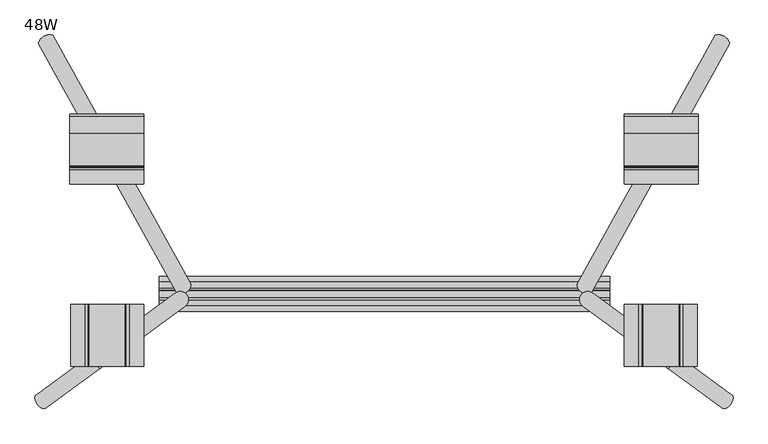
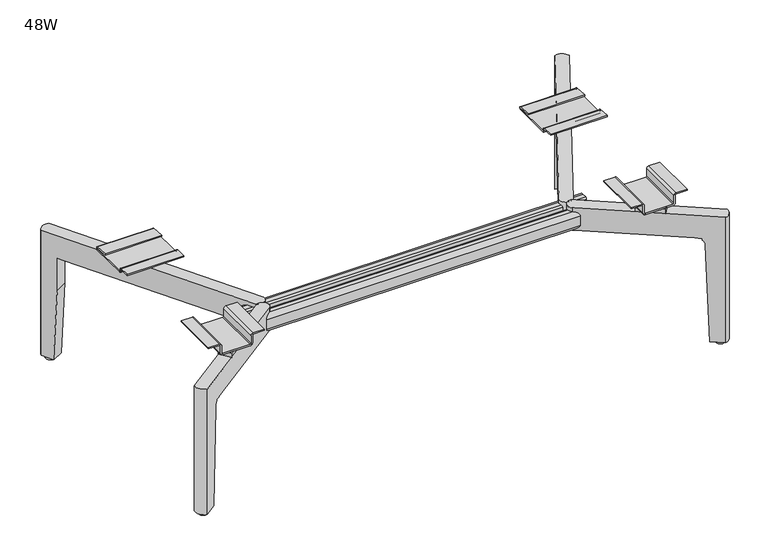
"""IFC4 building model written with IfcOpenShell, lengths in millimetres: furniture geometry, Steelcase Turnstone - Bivi - Seat - Rumble Seat - Freestanding Leg : 48W."""

from ifc_helpers import new_model, si_unit, point, frame, frame_2d, origin, place, context, project, spatial, polyline, circle_curve, ellipse_curve, trimmed, segment, composite_curve, outline, extrude, source, transform, mapped, element, save
from ifc_brep_helpers import plane_surface, cylinder_surface, revolved_surface, advanced_brep


def furniture_48w_d01410e0(model_context):
    return source(origin(), model_context, "Body", "SolidModel", [
        advanced_brep(
        [(-447.8548281, 399.932442, 6.3507797), (-449.298132, 399.6401574, 0.0), (-442.7371977, 403.2769427, 0.0), (-443.7499037, 402.2078387, 6.3507797), (-460.7193509, 409.6947013, 6.3507797), (-440.4467253, 409.6947013, 6.3507797), (-440.4467253, 409.6947013, 0.0), (-460.7193509, 409.6947013, 0.0)],
        [
            (0, 1, ellipse_curve(frame((-450.5830381, 409.6947013, -134.6670445), z_axis=(0.4836286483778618, -0.872489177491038, -0.06975647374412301), x_axis=(0.03381860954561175, -0.061010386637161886, 0.9975640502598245)), 145.3099945, 10.1363128)),
            (1, 2),
            (2, 3, ellipse_curve(frame((-450.5830381, 409.6947013, -134.6670445), z_axis=(0.4836286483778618, -0.872489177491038, -0.06975647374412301), x_axis=(0.03381860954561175, -0.061010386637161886, 0.9975640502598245)), 145.3099945, 10.1363128)),
            (3, 0),
            (4, 0, circle_curve(frame((-450.5830381, 409.6947013, 6.3507797), z_axis=(0.0, 0.0, 1.0), x_axis=(1.0, 0.0, 0.0)), 10.1363128)),
            (3, 5, circle_curve(frame((-450.5830381, 409.6947013, 6.3507797), z_axis=(0.0, 0.0, 1.0), x_axis=(1.0, 0.0, 0.0)), 10.1363128)),
            (5, 4, circle_curve(frame((-450.5830381, 409.6947013, 6.3507797), z_axis=(0.0, 0.0, 1.0), x_axis=(1.0, 0.0, 0.0)), 10.1363128)),
            (6, 2, circle_curve(frame((-450.5830381, 409.6947013, 0.0), z_axis=(0.0, 0.0, -1.0), x_axis=(1.0, 0.0, 0.0)), 10.1363128)),
            (1, 7, circle_curve(frame((-450.5830381, 409.6947013, 0.0), z_axis=(0.0, 0.0, -1.0), x_axis=(1.0, 0.0, 0.0)), 10.1363128)),
            (7, 6, circle_curve(frame((-450.5830381, 409.6947013, 0.0), z_axis=(0.0, 0.0, -1.0), x_axis=(1.0, 0.0, 0.0)), 10.1363128)),
            (6, 5),
            (4, 7),
        ],
        [
            plane_surface(frame((-171.7888142, 535.4370031, 225.5013372), z_axis=(0.4836286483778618, -0.872489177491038, -0.06975647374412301), x_axis=(-0.8746197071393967, -0.48480962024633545, 0.0))),
            plane_surface(frame((-446.7419649, -171.9895532, 6.3507797), z_axis=(0.0, 0.0, 1.0), x_axis=(0.0, -1.0, 0.0))),
            plane_surface(frame((-446.7419649, -171.9895532, 0.0), z_axis=(0.0, 0.0, -1.0), x_axis=(0.0, 1.0, 0.0))),
            cylinder_surface(frame((-450.5830381, 409.6947013, 0.0), z_axis=(0.0, 0.0, 1.0), x_axis=(1.0, 0.0, 0.0)), 10.1363128),
        ],
        [
            (0, [[1, 2, 3, 4]]),
            (1, [[5, -4, 6, 7]]),
            (2, [[8, -2, 9, 10]]),
            (3, [[-6, -3, -8, 11]]),
            (3, [[-9, -1, -5, 12]]),
            (3, [[-11, -10, -12, -7]]),
        ],
    ),
        advanced_brep(
        [(-466.4437124, -171.9895532, 6.3507797), (-446.7419649, -171.9895532, 6.3507797), (-466.4437124, -171.9895532, 0.0), (-446.7419649, -171.9895532, 0.0)],
        [
            (0, 1, circle_curve(frame((-456.5928387, -171.9895532, 6.3507797), z_axis=(0.0, 0.0, 1.0), x_axis=(1.0, 0.0, 0.0)), 9.8508738)),
            (1, 0, circle_curve(frame((-456.5928387, -171.9895532, 6.3507797), z_axis=(0.0, 0.0, 1.0), x_axis=(1.0, 0.0, 0.0)), 9.8508738)),
            (2, 3, circle_curve(frame((-456.5928387, -171.9895532, 0.0), z_axis=(0.0, 0.0, -1.0), x_axis=(1.0, 0.0, 0.0)), 9.8508738)),
            (3, 2, circle_curve(frame((-456.5928387, -171.9895532, 0.0), z_axis=(0.0, 0.0, -1.0), x_axis=(1.0, 0.0, 0.0)), 9.8508738)),
            (0, 2),
            (3, 1),
        ],
        [
            plane_surface(frame((-446.7419649, -171.9895532, 6.3507797), z_axis=(0.0, 0.0, 1.0), x_axis=(0.0, -1.0, 0.0))),
            plane_surface(frame((-446.7419649, -171.9895532, 0.0), z_axis=(0.0, 0.0, -1.0), x_axis=(0.0, 1.0, 0.0))),
            cylinder_surface(frame((-456.5928387, -171.9895532, 0.0), z_axis=(0.0, 0.0, 1.0), x_axis=(1.0, 0.0, 0.0)), 9.8508738),
        ],
        [
            (0, [[1, 2]]),
            (1, [[3, 4]]),
            (2, [[5, -4, 6, -1]]),
            (2, [[-6, -3, -5, -2]]),
        ],
    ),
        advanced_brep(
        [(-457.5662616, -189.9876549, 6.7022799), (-457.5662616, -189.9876549, 292.4522799), (-473.5132074, -168.2156528, 292.4522799), (-473.5132074, -168.2156528, 6.7022799), (-240.8156572, 2.2241264, 241.2086832), (-240.8156572, 2.2241264, 292.4522799), (-224.8687113, -19.5478757, 292.4522799), (-224.8687113, -19.5478757, 241.2086832), (-448.6415256, -149.9983405, 6.7022799), (-433.1586161, -172.1102269, 6.7022799), (-227.6420494, -21.5792126, 241.2086832), (-411.0791874, -155.9381058, 241.2086832), (-426.5620969, -133.8262194, 241.2086832), (-243.5889952, 0.1927895, 241.2086832), (-438.2836418, -142.4116881, 241.2086832), (-431.6129574, -137.5257321, 241.2086832), (-416.1300478, -159.6376185, 241.2086832), (-422.336696, -164.1836902, 241.2086832), (-227.6420494, -21.5792126, 292.4522799), (-426.9937008, -167.5947225, 225.4829664), (-422.336696, -164.1836902, 237.4952058), (-243.5889952, 0.1927895, 292.4522799), (-438.2836418, -142.4116881, 236.9772021), (-442.4766103, -145.4828361, 225.4829664)],
        [
            (0, 1),
            (1, 2, circle_curve(frame((-454.3433039, -170.9008062, 292.4522799), z_axis=(0.0, 0.0, -1.0), x_axis=(1.0, 0.0, 0.0)), 19.3570465)),
            (2, 3),
            (3, 0, circle_curve(frame((-454.3433039, -170.9008062, 6.7022799), z_axis=(0.0, 0.0, 1.0), x_axis=(1.0, 0.0, 0.0)), 19.3570465)),
            (4, 5),
            (5, 6, circle_curve(frame((-234.2288533, -9.6775431, 292.4522799), z_axis=(0.0, 0.0, -1.0), x_axis=(1.0, 0.0, 0.0)), 13.6027836)),
            (6, 7),
            (7, 4, circle_curve(frame((-234.2288533, -9.6775431, 241.2086832), z_axis=(0.0, 0.0, 1.0), x_axis=(1.0, 0.0, 0.0)), 13.6027836)),
            (3, 8),
            (8, 9),
            (9, 0),
            (7, 10),
            (10, 11),
            (11, 12),
            (12, 13),
            (13, 4),
            (14, 15),
            (15, 16),
            (16, 17),
            (17, 14),
            (6, 18),
            (18, 1),
            (9, 19),
            (19, 20, ellipse_curve(frame((-413.6046176, -157.7878621, 224.9035373), z_axis=(-0.5909011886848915, 0.8067439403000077, 0.0), x_axis=(0.8067439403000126, 0.5909011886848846, 0.0)), 16.6065634, 16.6027928)),
            (20, 17),
            (16, 11, ellipse_curve(frame((-413.6046176, -157.7878621, 224.9035373), z_axis=(-0.5909011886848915, 0.8067439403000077, 0.0), x_axis=(0.8067439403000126, 0.5909011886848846, 0.0)), 16.6065634, 16.6027928)),
            (5, 21),
            (21, 2),
            (12, 15, ellipse_curve(frame((-429.0875271, -135.6759757, 224.9035373), z_axis=(0.5909011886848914, -0.8067439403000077, 0.0), x_axis=(0.8067439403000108, 0.5909011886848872, 0.0)), 16.6065634, 16.6027928)),
            (14, 22),
            (22, 23, ellipse_curve(frame((-429.0875271, -135.6759757, 224.9035373), z_axis=(0.5909011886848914, -0.8067439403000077, 0.0), x_axis=(0.8067439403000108, 0.5909011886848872, 0.0)), 16.6065634, 16.6027928)),
            (23, 8),
            (20, 22, ellipse_curve(frame((-122.2524516, -573.8818773, 224.9035373), z_axis=(-0.8067439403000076, -0.5909011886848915, 0.0), x_axis=(-0.5909011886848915, 0.8067439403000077, 0.0)), 779.1591647, 16.6027928)),
            (23, 19),
        ],
        [
            cylinder_surface(frame((-454.3433039, -170.9008062, 0.0), z_axis=(0.0, 0.0, -1.0), x_axis=(1.0, 0.0, 0.0)), 19.3570465),
            cylinder_surface(frame((-234.2288533, -9.6775431, 0.0), z_axis=(0.0, 0.0, -1.0), x_axis=(1.0, 0.0, 0.0)), 13.6027836),
            plane_surface(frame((-471.7396919, -183.4559971, 6.7022799), z_axis=(0.0, 0.0, -1.0), x_axis=(-0.5909011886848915, 0.8067439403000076, 0.0))),
            plane_surface(frame((-217.2996816, 19.448449, 241.2086832), z_axis=(0.0, 0.0, -1.0000000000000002), x_axis=(-0.8067439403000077, -0.5909011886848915, 0.0))),
            plane_surface(frame((-201.3527358, -2.3235531, 241.2086832), z_axis=(0.5909011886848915, -0.8067439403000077, 0.0), x_axis=(-0.8067439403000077, -0.5909011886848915, 0.0))),
            plane_surface(frame((-201.3527358, -2.3235531, 292.4522799), z_axis=(0.0, 0.0, 1.0), x_axis=(-0.8067439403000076, -0.5909011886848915, 0.0))),
            plane_surface(frame((-217.2996816, 19.448449, 292.4522799), z_axis=(-0.5909011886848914, 0.8067439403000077, 0.0), x_axis=(-0.8067439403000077, -0.5909011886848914, 0.0))),
            plane_surface(frame((-438.2836418, -142.4116881, 241.2086832), z_axis=(0.8067439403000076, 0.5909011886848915, 0.0), x_axis=(0.0, 0.0, -1.0))),
            plane_surface(frame((-609.4927218, 93.0408907, 225.4829664), z_axis=(0.818653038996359, 0.5732270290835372, -0.0348994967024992), x_axis=(0.5735764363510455, -0.8191520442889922, 0.0))),
            revolved_surface(polyline([(-415.69028273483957, -125.86313766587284, 224.9035373), (-399.80143864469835, -148.55475868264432, 224.9035373)]), (-220.606391, -433.4178947, 224.9035373), (-0.5735764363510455, 0.8191520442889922, 0.0)),
            revolved_surface(polyline([(-555.4581048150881, 73.74599884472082, 224.9035373), (338.1536250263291, -1202.463811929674, 224.9035373)]), (-220.606391, -433.4178947, 224.9035373), (-0.5735764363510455, 0.8191520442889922, 0.0)),
        ],
        [
            (0, [[1, 2, 3, 4]]),
            (1, [[5, 6, 7, 8]]),
            (2, [[9, 10, 11, -4]]),
            (3, [[-8, 12, 13, 14, 15, 16]]),
            (3, [[17, 18, 19, 20]]),
            (4, [[-7, 21, 22, -1, -11, 23, 24, 25, -19, 26, -13, -12]]),
            (5, [[-21, -6, 27, 28, -2, -22]]),
            (6, [[-15, 29, -17, 30, 31, 32, -9, -3, -28, -27, -5, -16]]),
            (7, [[-25, 33, -30, -20]]),
            (8, [[-23, -10, -32, 34]]),
            (9, [[-29, -14, -26, -18]]),
            (10, [[-31, -33, -24, -34]]),
        ],
    ),
        advanced_brep(
        [(-444.2904487, 426.4865494, 6.7022799), (-431.2709408, 402.9987354, 6.7022799), (-454.8747402, 389.9149358, 6.7022799), (-467.894248, 413.4027498, 6.7022799), (-427.1537242, 395.57108, 241.2086832), (-421.4162326, 385.2203713, 241.2086832), (-216.7819531, 16.0503586, 241.2086832), (-240.3857524, 2.966559, 241.2086832), (-445.020032, 372.1365716, 241.2086832), (-450.7575235, 382.4872804, 241.2086832), (-216.7819531, 16.0503586, 292.4522799), (-427.1537242, 395.57108, 168.7476885), (-444.2904487, 426.4865494, 292.4522799), (-467.894248, 413.4027498, 292.4522799), (-240.3857524, 2.966559, 292.4522799), (-450.7575235, 382.4872804, 168.7476885)],
        [
            (0, 1),
            (1, 2),
            (2, 3),
            (3, 0, circle_curve(frame((-449.4837107, 408.0223516, 6.7022799), z_axis=(0.0, 0.0, -1.0), x_axis=(1.0, 0.0, 0.0)), 19.1806301)),
            (4, 5),
            (5, 6),
            (6, 7, circle_curve(frame((-231.6722089, 15.0800008, 241.2086832), z_axis=(0.0, 0.0, -1.0), x_axis=(1.0, 0.0, 0.0)), 14.9218401)),
            (7, 8),
            (8, 9),
            (9, 4),
            (10, 6),
            (4, 11),
            (11, 1),
            (0, 12),
            (12, 10),
            (12, 13, circle_curve(frame((-449.4837107, 408.0223516, 292.4522799), z_axis=(0.0, 0.0, 1.0), x_axis=(1.0, 0.0, 0.0)), 19.1806301)),
            (13, 14),
            (14, 10, circle_curve(frame((-231.6722089, 15.0800008, 292.4522799), z_axis=(0.0, 0.0, 1.0), x_axis=(1.0, 0.0, 0.0)), 14.9218401)),
            (13, 3),
            (2, 15),
            (15, 9),
            (7, 14),
            (15, 11),
        ],
        [
            plane_surface(frame((-463.9308371, 433.7747682, 6.7022799), z_axis=(0.0, 0.0, -1.0000000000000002), x_axis=(-0.8746197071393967, -0.4848096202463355, 0.0))),
            plane_surface(frame((-198.9909415, -16.045476, 241.2086832), z_axis=(0.0, 0.0, -1.0), x_axis=(-0.48480962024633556, 0.8746197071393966, 0.0))),
            plane_surface(frame((-198.9909415, -16.045476, 292.4522799), z_axis=(0.8746197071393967, 0.48480962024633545, 0.0), x_axis=(-0.48480962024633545, 0.8746197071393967, 0.0))),
            plane_surface(frame((-222.5947408, -29.1292756, 292.4522799), z_axis=(0.0, 0.0, 1.0), x_axis=(-0.48480962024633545, 0.8746197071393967, 0.0))),
            plane_surface(frame((-222.5947408, -29.1292756, 241.2086832), z_axis=(-0.8746197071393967, -0.4848096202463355, 0.0), x_axis=(-0.4848096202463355, 0.8746197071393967, 0.0))),
            plane_surface(frame((-427.1537242, 395.57108, 241.2086832), z_axis=(0.48480962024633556, -0.8746197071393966, 0.0), x_axis=(0.0, 0.0, -1.0))),
            cylinder_surface(frame((-449.4837107, 408.0223516, 0.0), z_axis=(0.0, 0.0, -1.0), x_axis=(1.0, 0.0, 0.0)), 19.1806301),
            cylinder_surface(frame((-231.6722089, 15.0800008, 0.0), z_axis=(0.0, 0.0, -1.0), x_axis=(1.0, 0.0, 0.0)), 14.9218401),
            plane_surface(frame((-171.0618568, 534.1255371, 225.4824396), z_axis=(0.4841452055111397, -0.8734210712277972, -0.05233595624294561), x_axis=(-0.8746197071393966, -0.48480962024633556, 0.0))),
        ],
        [
            (0, [[1, 2, 3, 4]]),
            (1, [[5, 6, 7, 8, 9, 10]]),
            (2, [[11, -6, -5, 12, 13, -1, 14, 15]]),
            (3, [[16, 17, 18, -15]]),
            (4, [[19, -3, 20, 21, -9, -8, 22, -17]]),
            (5, [[-21, 23, -12, -10]]),
            (6, [[-19, -16, -14, -4]]),
            (7, [[-11, -18, -22, -7]]),
            (8, [[-13, -23, -20, -2]]),
        ],
    ),
        extrude(outline(polyline([(-360.2254616, 274.8292982), (-331.6935947, 223.3564477), (-354.8019114, 210.5472986), (-383.3337783, 262.0201491), (-360.2254616, 274.8292982)])), frame((0.0, 0.0, 292.4522799), z_axis=(0.0, 0.0, 1.0), x_axis=(1.0, 0.0, 0.0)), (0.0, 0.0, 1.0), 9.681731),
        extrude(outline(polyline([(-336.1197035, -67.5815101), (-320.1727577, -89.3535122), (-367.1031783, -123.7277912), (-383.0501241, -101.9557892), (-336.1197035, -67.5815101)])), frame((0.0, 0.0, 292.4522799), z_axis=(0.0, 0.0, 1.0), x_axis=(1.0, 0.0, 0.0)), (0.0, 0.0, 1.0), 9.681731),
        extrude(outline(composite_curve([segment(polyline([(329.0146194, -391.536926), (329.0146194, -414.919227), (326.1962261, -414.919227), (326.1962261, -389.5196146), (307.319003, -389.5196146)]), True, "CONTINUOUS"), segment(trimmed(circle_curve(frame_2d((307.319003, -384.3346224)), 5.1849921), [point((307.319003, -389.5196146))], [point((302.1340108, -384.3346224))], False, "CARTESIAN"), True, "CONTINUOUS"), segment(polyline([(302.1340108, -384.3346224), (302.1340108, -324.9218765)]), True, "CONTINUOUS"), segment(trimmed(circle_curve(frame_2d((307.319003, -324.9218765)), 5.1849921), [point((302.1340108, -324.9218765))], [point((307.319003, -319.7368843))], False, "CARTESIAN"), True, "CONTINUOUS"), segment(polyline([(307.319003, -319.7368843), (326.1962261, -319.7368843), (326.1962261, -294.3372719), (329.0146194, -294.3372719), (329.0146194, -317.7195729)]), True, "CONTINUOUS"), segment(trimmed(circle_curve(frame_2d((323.9591212, -317.7195729)), 5.0554981), [point((329.0146194, -317.7195729))], [point((323.9591212, -322.775071))], False, "CARTESIAN"), True, "CONTINUOUS"), segment(polyline([(323.9591212, -322.775071), (307.4106461, -322.775071)]), True, "CONTINUOUS"), segment(trimmed(circle_curve(frame_2d((307.4106461, -325.0138648)), 2.2387938), [point((307.4106461, -322.775071))], [point((305.1718523, -325.0138648))], True, "CARTESIAN"), True, "CONTINUOUS"), segment(polyline([(305.1718523, -325.0138648), (305.1718523, -384.2426342)]), True, "CONTINUOUS"), segment(trimmed(circle_curve(frame_2d((307.4106461, -384.2426342)), 2.2387938), [point((305.1718523, -384.2426342))], [point((307.4106461, -386.4814279))], True, "CARTESIAN"), True, "CONTINUOUS"), segment(polyline([(307.4106461, -386.4814279), (323.9591212, -386.4814279)]), True, "CONTINUOUS"), segment(trimmed(circle_curve(frame_2d((323.9591212, -391.536926)), 5.0554981), [point((323.9591212, -386.4814279))], [point((329.0146194, -391.536926))], False, "CARTESIAN"), True, "CONTINUOUS")], self_intersect=False)), frame((0.0, -119.6808622, 0.0), z_axis=(0.0, 1.0, 0.0), x_axis=(0.0, 0.0, 1.0)), (0.0, 0.0, 1.0), 101.810408),
        extrude(outline(composite_curve([segment(polyline([(210.5472986, 305.1718523), (293.0972986, 305.1718523)]), True, "CONTINUOUS"), segment(trimmed(circle_curve(frame_2d((293.0706733, 305.6798944)), 0.5087393), [point((293.0972986, 305.1718523))], [point((293.0972986, 306.1879364))], True, "CARTESIAN"), True, "CONTINUOUS"), segment(polyline([(293.0972986, 306.1879364), (264.6966329, 307.6763522), (264.6966329, 310.6138209), (293.0972986, 309.1254051)]), True, "CONTINUOUS"), segment(trimmed(circle_curve(frame_2d((292.9140969, 305.629708)), 3.5004944), [point((293.0972986, 309.1254051))], [point((293.0972986, 302.1340108))], False, "CARTESIAN"), True, "CONTINUOUS"), segment(polyline([(293.0972986, 302.1340108), (210.5472986, 302.1340108)]), True, "CONTINUOUS"), segment(trimmed(circle_curve(frame_2d((210.5472986, 306.5928983)), 4.4588874), [point((210.5472986, 302.1340108))], [point((206.0896008, 306.6958872))], False, "CARTESIAN"), True, "CONTINUOUS"), segment(polyline([(206.0896008, 306.6958872), (206.0896008, 308.9892465)]), True, "CONTINUOUS"), segment(trimmed(circle_curve(frame_2d((204.5626663, 308.9892465)), 1.5269345), [point((206.0896008, 308.9892465))], [point((204.6399799, 310.5142224))], True, "CARTESIAN"), True, "CONTINUOUS"), segment(polyline([(204.6399799, 310.5142224), (181.1002415, 311.7478878), (181.1002415, 314.6691166), (204.5350283, 313.4409515)]), True, "CONTINUOUS"), segment(trimmed(circle_curve(frame_2d((204.2966829, 308.8930489)), 4.5541438), [point((204.5350283, 313.4409515))], [point((208.6006854, 310.3816014))], False, "CARTESIAN"), True, "CONTINUOUS"), segment(trimmed(circle_curve(frame_2d((199.2165598, 307.1360729)), 9.9295149), [point((208.6006854, 310.3816014))], [point((209.1329432, 306.625575))], False, "CARTESIAN"), True, "CONTINUOUS"), segment(trimmed(circle_curve(frame_2d((211.0902359, 307.1149751)), 2.0175498), [point((209.1329432, 306.625575))], [point((210.5472986, 305.1718523))], True, "CARTESIAN"), True, "CONTINUOUS")], self_intersect=False)), frame((-416.0038708, 0.0, 0.0), z_axis=(1.0, 0.0, 0.0), x_axis=(0.0, 1.0, 0.0)), (0.0, 0.0, 1.0), 121.840912),
        advanced_brep(
        [(651.0798535, 399.932442, 6.3507797), (646.9749291, 402.2078387, 6.3507797), (645.9622232, 403.2769427, 0.0), (652.5231575, 399.6401574, 0.0), (663.9443764, 409.6947013, 6.3507797), (643.6717507, 409.6947013, 6.3507797), (643.6717507, 409.6947013, 0.0), (663.9443764, 409.6947013, 0.0)],
        [
            (0, 1),
            (1, 2, ellipse_curve(frame((653.8080635, 409.6947013, -134.6670445), z_axis=(-0.4836286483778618, -0.872489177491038, -0.06975647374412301), x_axis=(-0.03381860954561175, -0.061010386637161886, 0.9975640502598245)), 145.3099945, 10.1363128)),
            (2, 3),
            (3, 0, ellipse_curve(frame((653.8080635, 409.6947013, -134.6670445), z_axis=(-0.4836286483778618, -0.872489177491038, -0.06975647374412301), x_axis=(-0.03381860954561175, -0.061010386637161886, 0.9975640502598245)), 145.3099945, 10.1363128)),
            (4, 5, circle_curve(frame((653.8080635, 409.6947013, 6.3507797), z_axis=(0.0, 0.0, 1.0), x_axis=(-1.0, 0.0, 0.0)), 10.1363128)),
            (5, 1, circle_curve(frame((653.8080635, 409.6947013, 6.3507797), z_axis=(0.0, 0.0, 1.0), x_axis=(-1.0, 0.0, 0.0)), 10.1363128)),
            (0, 4, circle_curve(frame((653.8080635, 409.6947013, 6.3507797), z_axis=(0.0, 0.0, 1.0), x_axis=(-1.0, 0.0, 0.0)), 10.1363128)),
            (6, 7, circle_curve(frame((653.8080635, 409.6947013, 0.0), z_axis=(0.0, 0.0, -1.0), x_axis=(-1.0, 0.0, 0.0)), 10.1363128)),
            (7, 3, circle_curve(frame((653.8080635, 409.6947013, 0.0), z_axis=(0.0, 0.0, -1.0), x_axis=(-1.0, 0.0, 0.0)), 10.1363128)),
            (2, 6, circle_curve(frame((653.8080635, 409.6947013, 0.0), z_axis=(0.0, 0.0, -1.0), x_axis=(-1.0, 0.0, 0.0)), 10.1363128)),
            (5, 6),
            (7, 4),
        ],
        [
            plane_surface(frame((375.0138397, 535.4370031, 225.5013372), z_axis=(-0.4836286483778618, -0.872489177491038, -0.06975647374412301), x_axis=(0.8746197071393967, -0.48480962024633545, 0.0))),
            plane_surface(frame((649.9669904, -171.9895532, 6.3507797), z_axis=(0.0, 0.0, 1.0), x_axis=(0.0, -1.0, 0.0))),
            plane_surface(frame((649.9669904, -171.9895532, 0.0), z_axis=(0.0, 0.0, -1.0), x_axis=(0.0, 1.0, 0.0))),
            cylinder_surface(frame((653.8080635, 409.6947013, 0.0), z_axis=(0.0, 0.0, 1.0), x_axis=(-1.0, 0.0, 0.0)), 10.1363128),
        ],
        [
            (0, [[1, 2, 3, 4]]),
            (1, [[5, 6, -1, 7]]),
            (2, [[8, 9, -3, 10]]),
            (3, [[11, -10, -2, -6]]),
            (3, [[12, -7, -4, -9]]),
            (3, [[-5, -12, -8, -11]]),
        ],
    ),
        advanced_brep(
        [(669.6687379, -171.9895532, 6.3507797), (649.9669904, -171.9895532, 6.3507797), (669.6687379, -171.9895532, 0.0), (649.9669904, -171.9895532, 0.0)],
        [
            (0, 1, circle_curve(frame((659.8178641, -171.9895532, 6.3507797), z_axis=(0.0, 0.0, 1.0), x_axis=(-1.0, 0.0, 0.0)), 9.8508738)),
            (1, 0, circle_curve(frame((659.8178641, -171.9895532, 6.3507797), z_axis=(0.0, 0.0, 1.0), x_axis=(-1.0, 0.0, 0.0)), 9.8508738)),
            (2, 3, circle_curve(frame((659.8178641, -171.9895532, 0.0), z_axis=(0.0, 0.0, -1.0), x_axis=(-1.0, 0.0, 0.0)), 9.8508738)),
            (3, 2, circle_curve(frame((659.8178641, -171.9895532, 0.0), z_axis=(0.0, 0.0, -1.0), x_axis=(-1.0, 0.0, 0.0)), 9.8508738)),
            (1, 3),
            (2, 0),
        ],
        [
            plane_surface(frame((649.9669904, -171.9895532, 6.3507797), z_axis=(0.0, 0.0, 1.0), x_axis=(0.0, -1.0, 0.0))),
            plane_surface(frame((649.9669904, -171.9895532, 0.0), z_axis=(0.0, 0.0, -1.0), x_axis=(0.0, 1.0, 0.0))),
            cylinder_surface(frame((659.8178641, -171.9895532, 0.0), z_axis=(0.0, 0.0, 1.0), x_axis=(-1.0, 0.0, 0.0)), 9.8508738),
        ],
        [
            (0, [[1, 2]]),
            (1, [[3, 4]]),
            (2, [[-2, 5, -3, 6]]),
            (2, [[-1, -6, -4, -5]]),
        ],
    ),
        advanced_brep(
        [(660.791287, -189.9876549, 6.7022799), (676.7382329, -168.2156528, 6.7022799), (676.7382329, -168.2156528, 292.4522799), (660.791287, -189.9876549, 292.4522799), (444.0406826, 2.2241264, 241.2086832), (428.0937368, -19.5478757, 241.2086832), (428.0937368, -19.5478757, 292.4522799), (444.0406826, 2.2241264, 292.4522799), (636.3836416, -172.1102269, 6.7022799), (651.8665511, -149.9983405, 6.7022799), (641.5086673, -142.4116881, 241.2086832), (625.5617215, -164.1836902, 241.2086832), (619.3550733, -159.6376185, 241.2086832), (634.8379828, -137.5257321, 241.2086832), (446.8140207, 0.1927895, 241.2086832), (629.7871224, -133.8262194, 241.2086832), (614.3042128, -155.9381058, 241.2086832), (430.8670749, -21.5792126, 241.2086832), (625.5617215, -164.1836902, 237.4952058), (630.2187262, -167.5947225, 225.4829664), (430.8670749, -21.5792126, 292.4522799), (446.8140207, 0.1927895, 292.4522799), (645.7016358, -145.4828361, 225.4829664), (641.5086673, -142.4116881, 236.9772021)],
        [
            (0, 1, circle_curve(frame((657.5683293, -170.9008062, 6.7022799), z_axis=(0.0, 0.0, 1.0), x_axis=(-1.0, 0.0, 0.0)), 19.3570465)),
            (1, 2),
            (2, 3, circle_curve(frame((657.5683293, -170.9008062, 292.4522799), z_axis=(0.0, 0.0, -1.0), x_axis=(-1.0, 0.0, 0.0)), 19.3570465)),
            (3, 0),
            (4, 5, circle_curve(frame((437.4538787, -9.6775431, 241.2086832), z_axis=(0.0, 0.0, 1.0), x_axis=(-1.0, 0.0, 0.0)), 13.6027836)),
            (5, 6),
            (6, 7, circle_curve(frame((437.4538787, -9.6775431, 292.4522799), z_axis=(0.0, 0.0, -1.0), x_axis=(-1.0, 0.0, 0.0)), 13.6027836)),
            (7, 4),
            (0, 8),
            (8, 9),
            (9, 1),
            (10, 11),
            (11, 12),
            (12, 13),
            (13, 10),
            (4, 14),
            (14, 15),
            (15, 16),
            (16, 17),
            (17, 5),
            (16, 12, ellipse_curve(frame((616.8296431, -157.7878621, 224.9035373), z_axis=(0.5909011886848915, 0.8067439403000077, 0.0), x_axis=(-0.8067439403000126, 0.5909011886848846, 0.0)), 16.6065634, 16.6027928)),
            (11, 18),
            (18, 19, ellipse_curve(frame((616.8296431, -157.7878621, 224.9035373), z_axis=(0.5909011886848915, 0.8067439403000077, 0.0), x_axis=(-0.8067439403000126, 0.5909011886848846, 0.0)), 16.6065634, 16.6027928)),
            (19, 8),
            (3, 20),
            (20, 6),
            (2, 21),
            (21, 7),
            (9, 22),
            (22, 23, ellipse_curve(frame((632.3125526, -135.6759757, 224.9035373), z_axis=(-0.5909011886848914, -0.8067439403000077, 0.0), x_axis=(-0.8067439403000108, 0.5909011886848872, 0.0)), 16.6065634, 16.6027928)),
            (23, 10),
            (13, 15, ellipse_curve(frame((632.3125526, -135.6759757, 224.9035373), z_axis=(-0.5909011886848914, -0.8067439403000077, 0.0), x_axis=(-0.8067439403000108, 0.5909011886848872, 0.0)), 16.6065634, 16.6027928)),
            (23, 18, ellipse_curve(frame((325.477477, -573.8818773, 224.9035373), z_axis=(0.8067439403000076, -0.5909011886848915, 0.0), x_axis=(0.5909011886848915, 0.8067439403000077, 0.0)), 779.1591647, 16.6027928)),
            (19, 22),
        ],
        [
            cylinder_surface(frame((657.5683293, -170.9008062, 0.0), z_axis=(0.0, 0.0, -1.0), x_axis=(-1.0, 0.0, 0.0)), 19.3570465),
            cylinder_surface(frame((437.4538787, -9.6775431, 0.0), z_axis=(0.0, 0.0, -1.0), x_axis=(-1.0, 0.0, 0.0)), 13.6027836),
            plane_surface(frame((674.9647174, -183.4559971, 6.7022799), z_axis=(0.0, 0.0, -1.0), x_axis=(0.5909011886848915, 0.8067439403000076, 0.0))),
            plane_surface(frame((420.5247071, 19.448449, 241.2086832), z_axis=(0.0, 0.0, -1.0000000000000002), x_axis=(0.8067439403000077, -0.5909011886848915, 0.0))),
            plane_surface(frame((404.5777613, -2.3235531, 241.2086832), z_axis=(-0.5909011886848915, -0.8067439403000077, 0.0), x_axis=(0.8067439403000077, -0.5909011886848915, 0.0))),
            plane_surface(frame((404.5777613, -2.3235531, 292.4522799), z_axis=(0.0, 0.0, 1.0), x_axis=(0.8067439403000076, -0.5909011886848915, 0.0))),
            plane_surface(frame((420.5247071, 19.448449, 292.4522799), z_axis=(0.5909011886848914, 0.8067439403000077, 0.0), x_axis=(0.8067439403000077, -0.5909011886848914, 0.0))),
            plane_surface(frame((641.5086673, -142.4116881, 241.2086832), z_axis=(-0.8067439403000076, 0.5909011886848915, 0.0), x_axis=(0.0, 0.0, -1.0))),
            plane_surface(frame((812.7177473, 93.0408907, 225.4829664), z_axis=(-0.818653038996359, 0.5732270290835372, -0.0348994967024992), x_axis=(-0.5735764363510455, -0.8191520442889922, 0.0))),
            revolved_surface(polyline([(618.9153082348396, -125.86313766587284, 224.9035373), (603.0264641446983, -148.55475868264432, 224.9035373)]), (423.8314165, -433.4178947, 224.9035373), (0.5735764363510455, 0.8191520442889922, 0.0)),
            revolved_surface(polyline([(758.683130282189, 73.74599879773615, 224.9035373), (-134.92859955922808, -1202.4638119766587, 224.9035373)]), (423.8314165, -433.4178947, 224.9035373), (0.5735764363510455, 0.8191520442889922, 0.0)),
        ],
        [
            (0, [[1, 2, 3, 4]]),
            (1, [[5, 6, 7, 8]]),
            (2, [[-1, 9, 10, 11]]),
            (3, [[12, 13, 14, 15]]),
            (3, [[16, 17, 18, 19, 20, -5]]),
            (4, [[-20, -19, 21, -13, 22, 23, 24, -9, -4, 25, 26, -6]]),
            (5, [[-25, -3, 27, 28, -7, -26]]),
            (6, [[-16, -8, -28, -27, -2, -11, 29, 30, 31, -15, 32, -17]]),
            (7, [[-12, -31, 33, -22]]),
            (8, [[34, -29, -10, -24]]),
            (9, [[-14, -21, -18, -32]]),
            (10, [[-34, -23, -33, -30]]),
        ],
    ),
        advanced_brep(
        [(647.5154741, 426.4865494, 6.7022799), (671.1192735, 413.4027498, 6.7022799), (658.0997656, 389.9149358, 6.7022799), (634.4959663, 402.9987354, 6.7022799), (630.3787497, 395.57108, 241.2086832), (653.982549, 382.4872804, 241.2086832), (648.2450574, 372.1365716, 241.2086832), (443.6107779, 2.966559, 241.2086832), (420.0069785, 16.0503586, 241.2086832), (624.6412581, 385.2203713, 241.2086832), (420.0069785, 16.0503586, 292.4522799), (647.5154741, 426.4865494, 292.4522799), (630.3787497, 395.57108, 168.7476885), (443.6107779, 2.966559, 292.4522799), (671.1192735, 413.4027498, 292.4522799), (653.982549, 382.4872804, 168.7476885)],
        [
            (0, 1, circle_curve(frame((652.7087361, 408.0223516, 6.7022799), z_axis=(0.0, 0.0, -1.0), x_axis=(-1.0, 0.0, 0.0)), 19.1806301)),
            (1, 2),
            (2, 3),
            (3, 0),
            (4, 5),
            (5, 6),
            (6, 7),
            (7, 8, circle_curve(frame((434.8972344, 15.0800008, 241.2086832), z_axis=(0.0, 0.0, -1.0), x_axis=(-1.0, 0.0, 0.0)), 14.9218401)),
            (8, 9),
            (9, 4),
            (10, 11),
            (11, 0),
            (3, 12),
            (12, 4),
            (8, 10),
            (10, 13, circle_curve(frame((434.8972344, 15.0800008, 292.4522799), z_axis=(0.0, 0.0, 1.0), x_axis=(-1.0, 0.0, 0.0)), 14.9218401)),
            (13, 14),
            (14, 11, circle_curve(frame((652.7087361, 408.0223516, 292.4522799), z_axis=(0.0, 0.0, 1.0), x_axis=(-1.0, 0.0, 0.0)), 19.1806301)),
            (13, 7),
            (5, 15),
            (15, 2),
            (1, 14),
            (12, 15),
        ],
        [
            plane_surface(frame((667.1558626, 433.7747682, 6.7022799), z_axis=(0.0, 0.0, -1.0000000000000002), x_axis=(0.8746197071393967, -0.4848096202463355, 0.0))),
            plane_surface(frame((402.2159669, -16.045476, 241.2086832), z_axis=(0.0, 0.0, -1.0), x_axis=(0.48480962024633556, 0.8746197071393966, 0.0))),
            plane_surface(frame((402.2159669, -16.045476, 292.4522799), z_axis=(-0.8746197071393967, 0.48480962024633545, 0.0), x_axis=(0.48480962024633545, 0.8746197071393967, 0.0))),
            plane_surface(frame((425.8197663, -29.1292756, 292.4522799), z_axis=(0.0, 0.0, 1.0), x_axis=(0.48480962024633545, 0.8746197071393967, 0.0))),
            plane_surface(frame((425.8197663, -29.1292756, 241.2086832), z_axis=(0.8746197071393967, -0.4848096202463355, 0.0), x_axis=(0.4848096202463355, 0.8746197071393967, 0.0))),
            plane_surface(frame((630.3787497, 395.57108, 241.2086832), z_axis=(-0.48480962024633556, -0.8746197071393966, 0.0), x_axis=(0.0, 0.0, -1.0))),
            cylinder_surface(frame((652.7087361, 408.0223516, 0.0), z_axis=(0.0, 0.0, -1.0), x_axis=(-1.0, 0.0, 0.0)), 19.1806301),
            cylinder_surface(frame((434.8972344, 15.0800008, 0.0), z_axis=(0.0, 0.0, -1.0), x_axis=(-1.0, 0.0, 0.0)), 14.9218401),
            plane_surface(frame((374.2868822, 534.1255371, 225.4824396), z_axis=(-0.4841452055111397, -0.8734210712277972, -0.05233595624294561), x_axis=(0.8746197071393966, -0.48480962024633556, 0.0))),
        ],
        [
            (0, [[1, 2, 3, 4]]),
            (1, [[5, 6, 7, 8, 9, 10]]),
            (2, [[11, 12, -4, 13, 14, -10, -9, 15]]),
            (3, [[-11, 16, 17, 18]]),
            (4, [[-17, 19, -7, -6, 20, 21, -2, 22]]),
            (5, [[-5, -14, 23, -20]]),
            (6, [[-1, -12, -18, -22]]),
            (7, [[-8, -19, -16, -15]]),
            (8, [[-3, -21, -23, -13]]),
        ],
    ),
        extrude(outline(polyline([(563.4504871, 274.8292982), (586.5588038, 262.0201491), (558.0269369, 210.5472986), (534.9186202, 223.3564477), (563.4504871, 274.8292982)])), frame((0.0, 0.0, 292.4522799), z_axis=(0.0, 0.0, 1.0), x_axis=(1.0, 0.0, 0.0)), (0.0, 0.0, 1.0), 9.681731),
        extrude(outline(polyline([(539.344729, -67.5815101), (586.2751495, -101.9557892), (570.3282037, -123.7277912), (523.3977832, -89.3535122), (539.344729, -67.5815101)])), frame((0.0, 0.0, 292.4522799), z_axis=(0.0, 0.0, 1.0), x_axis=(1.0, 0.0, 0.0)), (0.0, 0.0, 1.0), 9.681731),
        extrude(outline(composite_curve([segment(trimmed(circle_curve(frame_2d((323.9591212, 594.7619515)), 5.0554981), [point((329.0146194, 594.7619515))], [point((323.9591212, 589.7064534))], False, "CARTESIAN"), True, "CONTINUOUS"), segment(polyline([(323.9591212, 589.7064534), (307.4106461, 589.7064534)]), True, "CONTINUOUS"), segment(trimmed(circle_curve(frame_2d((307.4106461, 587.4676596)), 2.2387938), [point((307.4106461, 589.7064534))], [point((305.1718523, 587.4676596))], True, "CARTESIAN"), True, "CONTINUOUS"), segment(polyline([(305.1718523, 587.4676596), (305.1718523, 528.2388902)]), True, "CONTINUOUS"), segment(trimmed(circle_curve(frame_2d((307.4106461, 528.2388902)), 2.2387938), [point((305.1718523, 528.2388902))], [point((307.4106461, 526.0000964))], True, "CARTESIAN"), True, "CONTINUOUS"), segment(polyline([(307.4106461, 526.0000964), (323.9591212, 526.0000964)]), True, "CONTINUOUS"), segment(trimmed(circle_curve(frame_2d((323.9591212, 520.9445983)), 5.0554981), [point((323.9591212, 526.0000964))], [point((329.0146194, 520.9445983))], False, "CARTESIAN"), True, "CONTINUOUS"), segment(polyline([(329.0146194, 520.9445983), (329.0146194, 497.5622974), (326.1962261, 497.5622974), (326.1962261, 522.9619098), (307.319003, 522.9619098)]), True, "CONTINUOUS"), segment(trimmed(circle_curve(frame_2d((307.319003, 528.1469019)), 5.1849921), [point((307.319003, 522.9619098))], [point((302.1340108, 528.1469019))], False, "CARTESIAN"), True, "CONTINUOUS"), segment(polyline([(302.1340108, 528.1469019), (302.1340108, 587.5596479)]), True, "CONTINUOUS"), segment(trimmed(circle_curve(frame_2d((307.319003, 587.5596479)), 5.1849921), [point((302.1340108, 587.5596479))], [point((307.319003, 592.74464))], False, "CARTESIAN"), True, "CONTINUOUS"), segment(polyline([(307.319003, 592.74464), (326.1962261, 592.74464), (326.1962261, 618.1442524), (329.0146194, 618.1442524), (329.0146194, 594.7619515)]), True, "CONTINUOUS")], self_intersect=False)), frame((0.0, -119.6808622, 0.0), z_axis=(0.0, 1.0, 0.0), x_axis=(0.0, 0.0, 1.0)), (0.0, 0.0, 1.0), 101.810408),
        extrude(outline(composite_curve([segment(polyline([(210.5472986, 305.1718523), (293.0972986, 305.1718523)]), True, "CONTINUOUS"), segment(trimmed(circle_curve(frame_2d((293.0706733, 305.6798944)), 0.5087393), [point((293.0972986, 305.1718523))], [point((293.0972986, 306.1879364))], True, "CARTESIAN"), True, "CONTINUOUS"), segment(polyline([(293.0972986, 306.1879364), (264.6966329, 307.6763522), (264.6966329, 310.6138209), (293.0972986, 309.1254051)]), True, "CONTINUOUS"), segment(trimmed(circle_curve(frame_2d((292.9140969, 305.629708)), 3.5004944), [point((293.0972986, 309.1254051))], [point((293.0972986, 302.1340108))], False, "CARTESIAN"), True, "CONTINUOUS"), segment(polyline([(293.0972986, 302.1340108), (210.5472986, 302.1340108)]), True, "CONTINUOUS"), segment(trimmed(circle_curve(frame_2d((210.5472986, 306.5928983)), 4.4588874), [point((210.5472986, 302.1340108))], [point((206.0896008, 306.6958872))], False, "CARTESIAN"), True, "CONTINUOUS"), segment(polyline([(206.0896008, 306.6958872), (206.0896008, 308.9892465)]), True, "CONTINUOUS"), segment(trimmed(circle_curve(frame_2d((204.5626663, 308.9892465)), 1.5269345), [point((206.0896008, 308.9892465))], [point((204.6399799, 310.5142224))], True, "CARTESIAN"), True, "CONTINUOUS"), segment(polyline([(204.6399799, 310.5142224), (181.1002415, 311.7478878), (181.1002415, 314.6691166), (204.5350283, 313.4409515)]), True, "CONTINUOUS"), segment(trimmed(circle_curve(frame_2d((204.2966829, 308.8930489)), 4.5541438), [point((204.5350283, 313.4409515))], [point((208.6006854, 310.3816014))], False, "CARTESIAN"), True, "CONTINUOUS"), segment(trimmed(circle_curve(frame_2d((199.2165598, 307.1360729)), 9.9295149), [point((208.6006854, 310.3816014))], [point((209.1329432, 306.625575))], False, "CARTESIAN"), True, "CONTINUOUS"), segment(trimmed(circle_curve(frame_2d((211.0902359, 307.1149751)), 2.0175498), [point((209.1329432, 306.625575))], [point((210.5472986, 305.1718523))], True, "CARTESIAN"), True, "CONTINUOUS")], self_intersect=False)), frame((497.3879843, 0.0, 0.0), z_axis=(1.0, 0.0, 0.0), x_axis=(0.0, 1.0, 0.0)), (0.0, 0.0, 1.0), 121.840912),
        extrude(outline(composite_curve([segment(trimmed(circle_curve(frame_2d((-20.3378129, 254.2147965)), 8.636), [point((-20.3378129, 245.5787965))], [point((-28.9738129, 254.2147965))], False, "CARTESIAN"), True, "CONTINUOUS"), segment(polyline([(-28.9738129, 254.2147965), (-28.9738129, 275.4001954)]), True, "CONTINUOUS"), segment(trimmed(circle_curve(frame_2d((-20.4106361, 275.4001954)), 8.5631768), [point((-28.9738129, 275.4001954))], [point((-20.4106361, 283.9633721))], False, "CARTESIAN"), True, "CONTINUOUS"), segment(polyline([(-20.4106361, 283.9633721), (-10.2364808, 283.9633721)]), True, "CONTINUOUS"), segment(trimmed(circle_curve(frame_2d((-10.2364808, 280.2341976)), 3.7291745), [point((-10.2364808, 283.9633721))], [point((-6.5073063, 280.2341976))], False, "CARTESIAN"), True, "CONTINUOUS"), segment(polyline([(-6.5073063, 280.2341976), (-6.5073063, 272.004994)]), True, "CONTINUOUS"), segment(trimmed(circle_curve(frame_2d((-5.6231544, 272.004994)), 0.8841519), [point((-6.5073063, 272.004994))], [point((-5.6231544, 271.1208421))], True, "CARTESIAN"), True, "CONTINUOUS"), segment(polyline([(-5.6231544, 271.1208421), (5.3044616, 271.1208421)]), True, "CONTINUOUS"), segment(trimmed(circle_curve(frame_2d((5.3044616, 272.0093164)), 0.8884743), [point((5.3044616, 271.1208421))], [point((6.1929359, 272.0093164))], True, "CARTESIAN"), True, "CONTINUOUS"), segment(polyline([(6.1929359, 272.0093164), (6.1929359, 280.5727521)]), True, "CONTINUOUS"), segment(trimmed(circle_curve(frame_2d((9.583556, 280.5727521)), 3.3906201), [point((6.1929359, 280.5727521))], [point((9.583556, 283.9633721))], False, "CARTESIAN"), True, "CONTINUOUS"), segment(polyline([(9.583556, 283.9633721), (20.0402872, 283.9633721)]), True, "CONTINUOUS"), segment(trimmed(circle_curve(frame_2d((20.0402872, 275.3443622)), 8.61901), [point((20.0402872, 283.9633721))], [point((28.6592972, 275.3443622))], False, "CARTESIAN"), True, "CONTINUOUS"), segment(polyline([(28.6592972, 275.3443622), (28.6592972, 254.2877832)]), True, "CONTINUOUS"), segment(trimmed(circle_curve(frame_2d((19.9503104, 254.2877832)), 8.7089867), [point((28.6592972, 254.2877832))], [point((19.9503104, 245.5787965))], False, "CARTESIAN"), True, "CONTINUOUS"), segment(polyline([(19.9503104, 245.5787965), (-20.3378129, 245.5787965)]), True, "CONTINUOUS")], self_intersect=False)), frame((-269.0513864, 0.0, 0.0), z_axis=(1.0, 0.0, 0.0), x_axis=(0.0, 1.0, 0.0)), (0.0, 0.0, 1.0), 742.696),
    ])


if __name__ == "__main__":
    model = new_model("IFC4")
    model_context = context("Model", 3, world=origin())
    ifc_project = project(units=[si_unit("LENGTHUNIT", "METRE", prefix="MILLI")], contexts=[model_context])
    site = spatial("IfcSite", under=ifc_project)
    building = spatial("IfcBuilding", under=site)
    placement = place(None, origin())
    furniture_48w_shape = furniture_48w_d01410e0(model_context)
    element("IfcFurniture", 1, ObjectType="Steelcase Turnstone - Bivi - Seat - Rumble Seat - Freestanding Leg : 48W", at=placement, inside=building, context=model_context, shape_type="MappedRepresentation", body=[
        mapped(furniture_48w_shape, transform((0.0, 0.0, 0.0), x_axis=(1.0, 0.0, 0.0), y_axis=(0.0, 1.0, 0.0), z_axis=(0.0, 0.0, 1.0))),
    ])
    save(model, "model.ifc")
